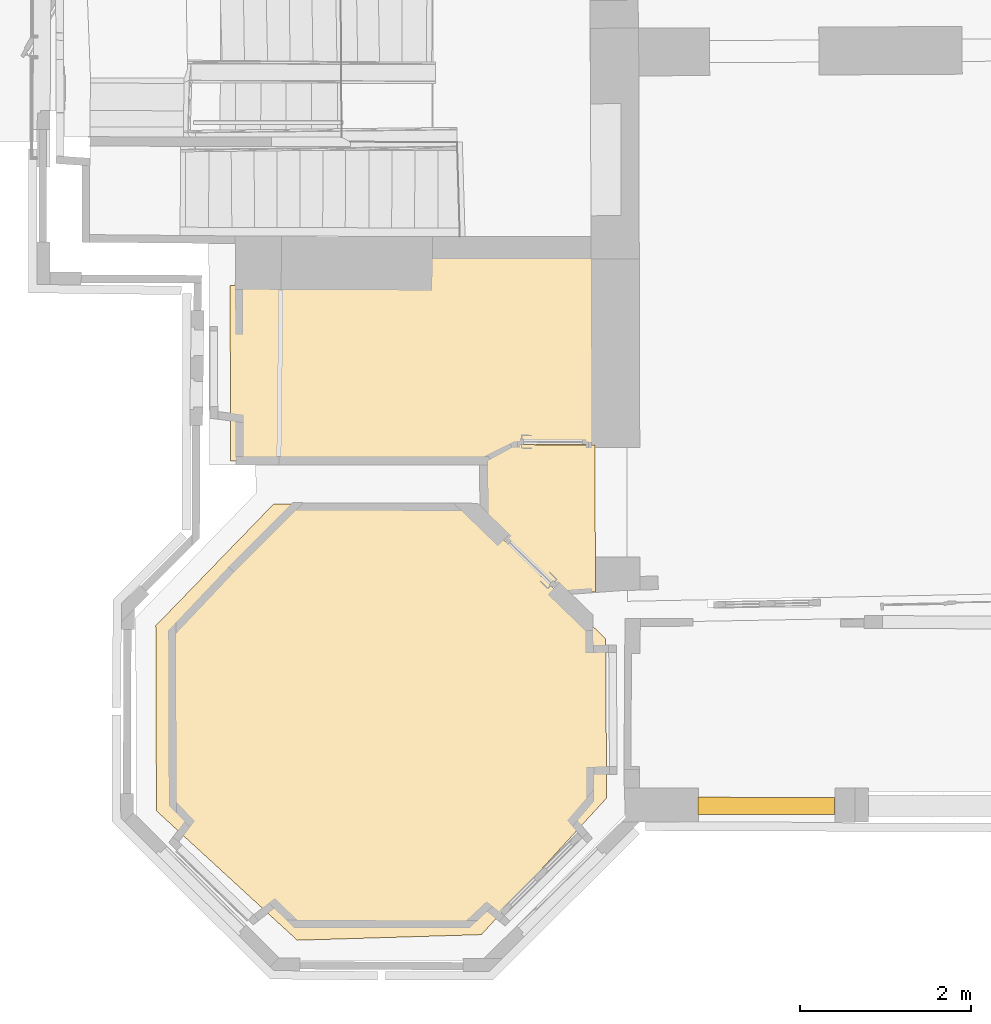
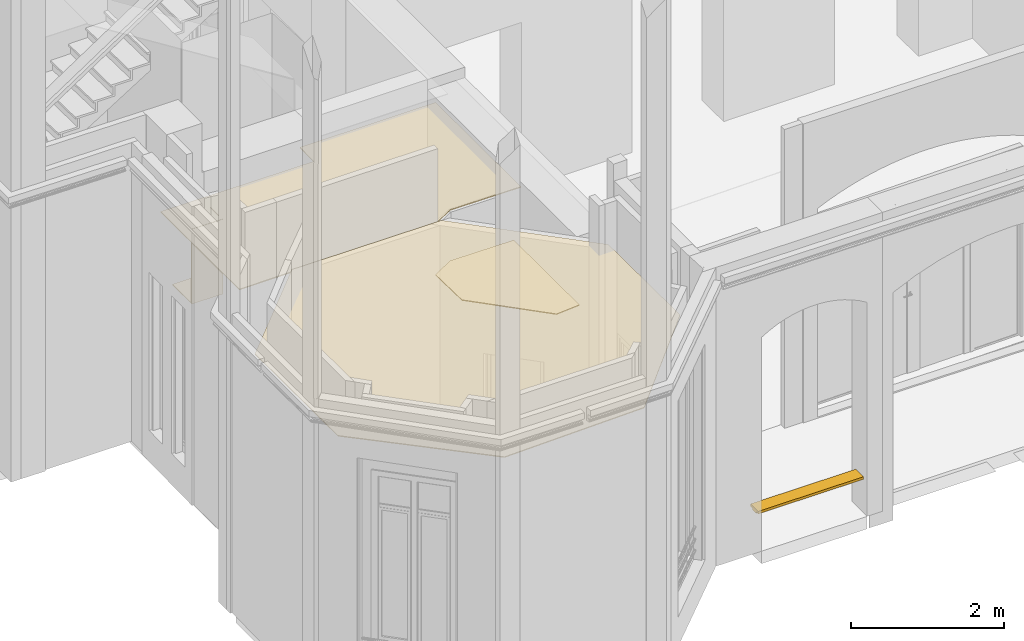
# One storey, part 78 of 97: 3 coverings, 1 railing.
"""IFC2X3 building model written with IfcOpenShell, lengths in centimetres."""

from ifc_helpers import new_model, entity, si_unit, converted_unit, direction, frame, origin, origin_with_axes, place, context, subcontext, project, spatial, faceted_brep, shape, source, transform, mapped, material, material_list, type_object, element, save


model = new_model("IFC2X3")

# Units and contexts
model_context = context("Model", 3, precision=0.0001, world=origin(), true_north=direction((0.225632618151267, 0.974212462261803, 0.0)))
body_context = subcontext(model_context, "Body", "Model", "MODEL_VIEW")
ifc_project = project(units=[si_unit("LENGTHUNIT", "METRE", prefix="CENTI"), si_unit("AREAUNIT", "SQUARE_METRE", prefix="CENTI"), si_unit("VOLUMEUNIT", "CUBIC_METRE", prefix="CENTI"), converted_unit("PLANEANGLEUNIT", "DEGREE", entity("IfcRatioMeasure", 0.0174532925), si_unit("PLANEANGLEUNIT", "RADIAN"), dimensions=[0, 0, 0, 0, 0, 0, 0])], contexts=[model_context])

# Site, building, storey
site_placement = place(None, origin_with_axes())
site = spatial("IfcSite", under=ifc_project, at=site_placement, Name="Default Site", CompositionType="ELEMENT")
building_placement = place(site_placement, origin_with_axes())
building = spatial("IfcBuilding", under=site, at=building_placement, Name="Default Building", CompositionType="ELEMENT")
storey_placement = place(building_placement, origin_with_axes())
storey = spatial("IfcBuildingStorey", under=building, at=storey_placement, Name="Rez-de-chaussée", CompositionType="ELEMENT", Elevation=0.0)

# Railing
ifc_material_1 = material(Name="Pierre du saint gottard")
ifc_material_2 = material(Name="Aluminium mat")
ifc_material_list = material_list([ifc_material_1, ifc_material_2])
railing_type = type_object("IfcRailingType", Name="Colonnes rectangulaire", PredefinedType="NOTDEFINED", material=ifc_material_list)
shared_shape_1 = source(origin_with_axes(), body_context, "Body", "Brep", [
    faceted_brep([(-430.406427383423, -942.126655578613, 54.0002822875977), (-430.417823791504, -947.126579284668, 54.0002822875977), (-589.546251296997, -946.764850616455, 54.0002822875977), (-589.534854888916, -941.7649269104, 54.0002822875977), (-430.417823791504, -947.126579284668, 52.0002841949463), (-589.546251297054, -946.764850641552, 52.0002841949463), (-589.546251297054, -946.764850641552, 54.0002822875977), (-430.440521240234, -957.126617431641, 52.0002841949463), (-589.568948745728, -956.764888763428, 52.0002841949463), (-589.546251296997, -946.764850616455, 52.0002841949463), (-430.440521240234, -957.126617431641, 54.0002822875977), (-589.568948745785, -956.764888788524, 54.0002822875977), (-589.568948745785, -956.764888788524, 52.0002841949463), (-430.451917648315, -962.126541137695, 54.0002822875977), (-589.580345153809, -961.764812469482, 54.0002822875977), (-589.568948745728, -956.764888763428, 54.0002822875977), (-430.451917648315, -962.126541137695, 57.9999983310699), (-589.580345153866, -961.764812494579, 57.9999983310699), (-589.580345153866, -961.764812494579, 54.0002822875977), (-430.406427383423, -942.126655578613, 57.9999983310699), (-589.534854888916, -941.7649269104, 57.9999983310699), (-589.580345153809, -961.764812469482, 57.9999983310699), (-589.534854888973, -941.764926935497, 54.0002822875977), (-589.534854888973, -941.764926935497, 57.9999983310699), (-589.546220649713, -946.764850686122, 54.0002822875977), (-589.546220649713, -946.764850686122, 52.0002841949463), (-589.568952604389, -956.764888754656, 52.0002841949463), (-589.568952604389, -956.764888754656, 54.0002822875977), (-589.580318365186, -961.764812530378, 54.0002822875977), (-589.580318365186, -961.764812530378, 57.9999983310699), (-430.451890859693, -962.126541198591, 57.9999983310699), (-430.451890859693, -962.126541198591, 54.0002822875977), (-430.440525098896, -957.126617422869, 54.0002822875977), (-430.440525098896, -957.126617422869, 52.0002841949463), (-430.41779314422, -947.126579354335, 52.0002841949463), (-430.41779314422, -947.126579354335, 54.0002822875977)], [[[0, 1, 2, 3]], [[1, 4, 5, 6]], [[4, 7, 8, 9]], [[7, 10, 11, 12]], [[10, 13, 14, 15]], [[13, 16, 17, 18]], [[16, 19, 20, 21]], [[19, 0, 22, 23]], [[3, 24, 25, 26, 27, 28, 29, 20]], [[19, 30, 31, 32, 33, 34, 35, 0]]]),
])
shared_shape_2 = source(origin_with_axes(), body_context, "Body", "Brep", [
    faceted_brep([(-430.417823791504, -947.126579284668, 3.99971418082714), (-430.417823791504, -947.126579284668, 1.99971422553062), (-589.546251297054, -946.764850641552, 1.99971422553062), (-589.546251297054, -946.764850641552, 3.99971418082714), (-430.406427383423, -942.126655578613, 1.99971422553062), (-589.534854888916, -941.7649269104, 1.99971422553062), (-589.546251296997, -946.764850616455, 1.99971422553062), (-430.406427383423, -942.126655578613, -1.99999995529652), (-589.534854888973, -941.764926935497, -1.99999995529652), (-589.534854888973, -941.764926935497, 1.99971422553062), (-430.451917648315, -962.126541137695, -1.99999995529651), (-589.580345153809, -961.764812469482, -1.99999995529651), (-589.534854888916, -941.7649269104, -1.99999995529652), (-430.451917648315, -962.126541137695, -1.99999995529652), (-430.451917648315, -962.126541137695, 1.99971422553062), (-589.580345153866, -961.764812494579, 1.99971422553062), (-589.580345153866, -961.764812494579, -1.99999995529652), (-430.440521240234, -957.126617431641, 1.99971422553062), (-589.568948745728, -956.764888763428, 1.99971422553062), (-589.580345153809, -961.764812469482, 1.99971422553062), (-430.440521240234, -957.126617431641, 3.99971418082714), (-589.568948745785, -956.764888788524, 3.99971418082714), (-589.568948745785, -956.764888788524, 1.99971422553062), (-589.546251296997, -946.764850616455, 3.99971418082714), (-589.568948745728, -956.764888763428, 3.99971418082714), (-589.5348855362, -941.764926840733, 1.99971422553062), (-589.5348855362, -941.764926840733, -1.99999995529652), (-589.58034901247, -961.764812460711, -1.99999995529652), (-589.58034901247, -961.764812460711, 1.99971422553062), (-589.568983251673, -956.764888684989, 1.99971422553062), (-589.568983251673, -956.764888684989, 3.99971418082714), (-430.451887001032, -962.126541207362, 1.99971422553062), (-430.451887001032, -962.126541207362, -1.99999995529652), (-430.406423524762, -942.126655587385, -1.99999995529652), (-430.406423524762, -942.126655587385, 1.99971422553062), (-430.417789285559, -947.126579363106, 1.99971422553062), (-430.417789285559, -947.126579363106, 3.99971418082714)], [[[0, 1, 2, 3]], [[1, 4, 5, 6]], [[4, 7, 8, 9]], [[7, 10, 11, 12]], [[13, 14, 15, 16]], [[14, 17, 18, 19]], [[17, 20, 21, 22]], [[20, 0, 23, 24]], [[23, 6, 25, 26, 27, 28, 29, 30]], [[20, 17, 31, 32, 33, 34, 35, 36]]]),
])
shared_shape_3 = source(origin_with_axes(), body_context, "Body", "Brep", [
    faceted_brep([(11.9649283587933, 0.0712678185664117, 1.01694911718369), (11.5499995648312, 0.0500000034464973, 2.03389823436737), (11.9649283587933, 0.0712678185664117, 2.03389823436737), (11.5499995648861, 0.0500000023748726, 2.03389823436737), (11.9649283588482, 0.071267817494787, 1.01694911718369), (11.5499995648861, 0.0500000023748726, 1.01694911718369), (11.9499996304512, -0.44999998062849, 1.01694911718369), (11.5499995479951, 0.0499999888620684, 2.03389823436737), (11.5499995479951, 0.0499999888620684, 1.01694911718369), (11.9499996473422, -0.449999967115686, 1.01694911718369), (11.9499996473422, -0.449999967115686, 2.03389823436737), (12.4499999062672, -0.0500000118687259, 2.03389823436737), (11.9499996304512, -0.44999998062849, 2.03389823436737), (12.4499998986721, -0.0500000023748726, 2.03389823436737), (11.9499996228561, -0.449999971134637, 1.01694911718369), (12.4499998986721, -0.0500000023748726, 1.01694911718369), (11.9649283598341, 0.0712678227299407, 2.03389823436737), (12.4499998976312, -0.0500000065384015, 1.01694911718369)], [[[0, 1, 2]], [[3, 4, 5]], [[6, 7, 8]], [[3, 9, 10]], [[6, 11, 12]], [[13, 14, 15]], [[15, 16, 13]], [[2, 17, 0]], [[12, 2, 3]], [[2, 12, 13]], [[0, 6, 5]], [[6, 0, 15]]]),
])
shared_shape_4 = source(origin_with_axes(), body_context, "Body", "Brep", [
    faceted_brep([(-12.0350711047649, 0.0712678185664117, 1.01694911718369), (-12.449999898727, 0.0500000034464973, 2.03389823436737), (-12.0350711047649, 0.0712678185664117, 2.03389823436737), (-12.4499998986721, 0.0500000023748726, 2.03389823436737), (-12.03507110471, 0.071267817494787, 1.01694911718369), (-12.4499998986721, 0.0500000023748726, 1.01694911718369), (-12.049999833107, -0.44999998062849, 1.01694911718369), (-12.4499999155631, 0.0499999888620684, 2.03389823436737), (-12.4499999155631, 0.0499999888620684, 1.01694911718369), (-12.049999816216, -0.449999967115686, 1.01694911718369), (-12.049999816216, -0.449999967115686, 2.03389823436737), (-11.549999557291, -0.0500000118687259, 2.03389823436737), (-12.049999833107, -0.44999998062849, 2.03389823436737), (-11.5499995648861, -0.0500000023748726, 2.03389823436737), (-12.0499998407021, -0.449999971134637, 1.01694911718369), (-11.5499995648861, -0.0500000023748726, 1.01694911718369), (-12.0350711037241, 0.0712678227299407, 2.03389823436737), (-11.549999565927, -0.0500000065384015, 1.01694911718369)], [[[0, 1, 2]], [[3, 4, 5]], [[6, 7, 8]], [[3, 9, 10]], [[6, 11, 12]], [[13, 14, 15]], [[15, 16, 13]], [[2, 17, 0]], [[12, 2, 3]], [[2, 12, 13]], [[0, 6, 5]], [[6, 0, 15]]]),
])
shared_shape_5 = source(origin_with_axes(), body_context, "Body", "Brep", [
    faceted_brep([(-2.99999993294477, -5.00000007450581, 0.0), (2.99999993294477, 5.00000007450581, 0.0), (2.99999993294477, -5.00000007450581, 0.0), (-2.99999993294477, 5.00000007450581, 0.0), (-2.99999993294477, 5.00000007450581, 47.9999989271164), (2.99999993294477, 5.00000007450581, 47.9999989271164), (2.99999993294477, -5.00000007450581, 47.9999989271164), (-2.99999993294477, -5.00000007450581, 47.9999989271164)], [[[0, 1, 2]], [[1, 0, 3]], [[4, 1, 3]], [[1, 4, 5]], [[4, 6, 5]], [[6, 4, 7]], [[6, 0, 2]], [[0, 6, 7]], [[6, 1, 5]], [[1, 6, 2]], [[0, 4, 3]], [[4, 0, 7]]]),
])
railing_placement = place(storey_placement, frame((-589.557606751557, -951.764895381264, -2.0), z_axis=(0.0, 0.0, 1.0), x_axis=(1.0, 0.0, 0.0)))
element("IfcRailing", 1, at=railing_placement, inside=storey, type_object=railing_type, material=ifc_material_list, Name="Garde-corps 379473", PredefinedType="NOTDEFINED", shapes=[
    shape(body_context, "Body", "MappedRepresentation", [mapped(shared_shape_1, transform((589.557606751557, 951.764895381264, 2.0), x_axis=(1.0, 0.0, 0.0), y_axis=(0.0, 1.0, 0.0), z_axis=(0.0, 0.0, 1.0), scale=1.0, scale2=1.0, scale3=1.0, uniform=False))]),
    shape(body_context, "Body", "MappedRepresentation", [mapped(shared_shape_2, transform((589.557606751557, 951.764895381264, 2.0), x_axis=(1.0, 0.0, 0.0), y_axis=(0.0, 1.0, 0.0), z_axis=(0.0, 0.0, 1.0), scale=1.0, scale2=1.0, scale3=1.0, uniform=False))]),
    shape(body_context, "Body", "MappedRepresentation", [mapped(shared_shape_3, transform((6.73019506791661e-06, 2.56913223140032e-05, 4.47034836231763e-08), x_axis=(0.999997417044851, -0.00227286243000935, 0.0), y_axis=(0.00227286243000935, 0.999997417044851, 0.0), z_axis=(0.0, 0.0, 1.0), scale=1.00000001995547, scale2=1.00000001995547, scale3=1.0, uniform=False))]),
    shape(body_context, "Body", "MappedRepresentation", [mapped(shared_shape_4, transform((159.128434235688, -0.361702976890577, 4.47034836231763e-08), x_axis=(0.999997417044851, -0.00227286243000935, 0.0), y_axis=(0.00227286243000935, 0.999997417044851, 0.0), z_axis=(0.0, 0.0, 1.0), scale=1.00000001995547, scale2=1.00000001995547, scale3=1.0, uniform=False))]),
    shape(body_context, "Body", "MappedRepresentation", [mapped(shared_shape_5, transform((9.56440644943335, -0.0217180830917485, 5.99999991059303), x_axis=(0.999997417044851, -0.00227286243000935, 0.0), y_axis=(0.00227286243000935, 0.999997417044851, 0.0), z_axis=(0.0, 0.0, 1.0), scale=1.00000001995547, scale2=1.00000001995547, scale3=1.0, uniform=False))]),
    shape(body_context, "Body", "MappedRepresentation", [mapped(shared_shape_5, transform((23.5643454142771, -0.0535708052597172, 5.99999991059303), x_axis=(0.999997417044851, -0.00227286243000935, 0.0), y_axis=(0.00227286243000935, 0.999997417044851, 0.0), z_axis=(0.0, 0.0, 1.0), scale=1.00000001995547, scale2=1.00000001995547, scale3=1.0, uniform=False))]),
    shape(body_context, "Body", "MappedRepresentation", [mapped(shared_shape_5, transform((37.5643320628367, -0.085423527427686, 5.99999991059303), x_axis=(0.999997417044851, -0.00227286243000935, 0.0), y_axis=(0.00227286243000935, 0.999997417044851, 0.0), z_axis=(0.0, 0.0, 1.0), scale=1.00000001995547, scale2=1.00000001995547, scale3=1.0, uniform=False))]),
    shape(body_context, "Body", "MappedRepresentation", [mapped(shared_shape_5, transform((51.5642710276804, -0.117180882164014, 5.99999991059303), x_axis=(0.999997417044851, -0.00227286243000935, 0.0), y_axis=(0.00227286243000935, 0.999997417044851, 0.0), z_axis=(0.0, 0.0, 1.0), scale=1.00000001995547, scale2=1.00000001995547, scale3=1.0, uniform=False))]),
    shape(body_context, "Body", "MappedRepresentation", [mapped(shared_shape_5, transform((65.56425767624, -0.149033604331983, 5.99999991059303), x_axis=(0.999997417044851, -0.00227286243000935, 0.0), y_axis=(0.00227286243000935, 0.999997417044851, 0.0), z_axis=(0.0, 0.0, 1.0), scale=1.00000001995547, scale2=1.00000001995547, scale3=1.0, uniform=False))]),
    shape(body_context, "Body", "MappedRepresentation", [mapped(shared_shape_5, transform((79.5641966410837, -0.180886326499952, 5.99999991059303), x_axis=(0.999997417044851, -0.00227286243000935, 0.0), y_axis=(0.00227286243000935, 0.999997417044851, 0.0), z_axis=(0.0, 0.0, 1.0), scale=1.00000001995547, scale2=1.00000001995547, scale3=1.0, uniform=False))]),
    shape(body_context, "Body", "MappedRepresentation", [mapped(shared_shape_5, transform((93.5641832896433, -0.21264368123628, 5.99999991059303), x_axis=(0.999997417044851, -0.00227286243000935, 0.0), y_axis=(0.00227286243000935, 0.999997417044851, 0.0), z_axis=(0.0, 0.0, 1.0), scale=1.00000001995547, scale2=1.00000001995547, scale3=1.0, uniform=False))]),
    shape(body_context, "Body", "MappedRepresentation", [mapped(shared_shape_5, transform((107.564122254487, -0.244496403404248, 5.99999991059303), x_axis=(0.999997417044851, -0.00227286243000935, 0.0), y_axis=(0.00227286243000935, 0.999997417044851, 0.0), z_axis=(0.0, 0.0, 1.0), scale=1.00000001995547, scale2=1.00000001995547, scale3=1.0, uniform=False))]),
    shape(body_context, "Body", "MappedRepresentation", [mapped(shared_shape_5, transform((121.564108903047, -0.276253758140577, 5.99999991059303), x_axis=(0.999997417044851, -0.00227286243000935, 0.0), y_axis=(0.00227286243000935, 0.999997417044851, 0.0), z_axis=(0.0, 0.0, 1.0), scale=1.00000001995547, scale2=1.00000001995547, scale3=1.0, uniform=False))]),
    shape(body_context, "Body", "MappedRepresentation", [mapped(shared_shape_5, transform((135.56404786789, -0.308106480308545, 5.99999991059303), x_axis=(0.999997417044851, -0.00227286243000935, 0.0), y_axis=(0.00227286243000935, 0.999997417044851, 0.0), z_axis=(0.0, 0.0, 1.0), scale=1.00000001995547, scale2=1.00000001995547, scale3=1.0, uniform=False))]),
    shape(body_context, "Body", "MappedRepresentation", [mapped(shared_shape_5, transform((149.56403451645, -0.339959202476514, 5.99999991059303), x_axis=(0.999997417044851, -0.00227286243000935, 0.0), y_axis=(0.00227286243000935, 0.999997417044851, 0.0), z_axis=(0.0, 0.0, 1.0), scale=1.00000001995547, scale2=1.00000001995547, scale3=1.0, uniform=False))]),
])

# Coverings
ifc_material_3 = material(Name="Blanc")
covering_1_placement = place(storey_placement, frame((-1085.31632828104, -599.119658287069, 397.092408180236), z_axis=(0.0, 0.0, 1.0), x_axis=(1.0, 0.0, 0.0)))
element("IfcCovering", 2, at=covering_1_placement, inside=storey, material=ifc_material_3, Name="Faux-plafond 8413", PredefinedType="CEILING", context=body_context, shape_type="Brep", body=[
    faceted_brep([(-137.103410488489, -358.647256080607, 1.39999961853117), (27.4198095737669, -509.783368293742, 1.39999961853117), (242.472032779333, -503.236584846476, 1.39999961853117), (388.783888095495, -343.71996421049, 1.39999961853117), (387.675241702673, -157.746939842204, 1.39999961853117), (226.059679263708, -0.667767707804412, 1.39999961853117), (-4.36366823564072e-05, -4.95145675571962e-06, 1.39999961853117), (-137.889619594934, -142.37547415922, 1.39999961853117), (-137.889619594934, -142.37547415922, 5.72204679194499e-06), (-4.36366823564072e-05, -4.95145675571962e-06, 5.72204679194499e-06), (226.059679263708, -0.667767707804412, 5.72204679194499e-06), (387.675241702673, -157.746939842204, 5.72204679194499e-06), (388.783888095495, -343.71996421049, 5.72204679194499e-06), (242.472032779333, -503.236584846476, 5.72204679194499e-06), (27.4198095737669, -509.783368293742, 5.72204679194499e-06), (-137.103410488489, -358.647256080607, 5.72204679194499e-06), (27.4198183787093, -509.783358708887, 5.72204679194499e-06), (27.4198183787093, -509.783358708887, 1.39999961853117), (242.472031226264, -503.236533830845, 5.72204679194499e-06), (242.472031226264, -503.236533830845, 1.39999961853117), (388.783929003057, -343.720001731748, 5.72204679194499e-06), (388.783929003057, -343.720001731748, 1.39999961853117), (387.675236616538, -157.746939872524, 5.72204679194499e-06), (387.675236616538, -157.746939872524, 1.39999961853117), (226.059648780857, -0.667799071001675, 5.72204679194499e-06), (226.059648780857, -0.667799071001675, 1.39999961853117), (-4.35775325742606e-05, 1.50720954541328e-05, 5.72204679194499e-06), (-4.35775325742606e-05, 1.50720954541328e-05, 1.39999961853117), (-137.889621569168, -142.375472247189, 5.72204679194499e-06), (-137.889621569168, -142.375472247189, 1.39999961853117), (-137.10344673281, -358.647256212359, 5.72204679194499e-06), (-137.10344673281, -358.647256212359, 1.39999961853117)], [[[0, 1, 2, 3, 4, 5, 6, 7]], [[8, 9, 10, 11, 12, 13, 14, 15]], [[15, 16, 17, 0]], [[14, 18, 19, 1]], [[13, 20, 21, 2]], [[12, 22, 23, 3]], [[11, 24, 25, 4]], [[10, 26, 27, 5]], [[9, 28, 29, 6]], [[8, 30, 31, 7]]]),
])
covering_2_placement = place(storey_placement, frame((-1136.4391290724, -343.874532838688, 352.889107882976), z_axis=(0.0, 0.0, 1.0), x_axis=(1.0, 0.0, 0.0)))
element("IfcCovering", 3, at=covering_2_placement, inside=storey, material=ifc_material_3, Name="Faux-plafond 6627", PredefinedType="CEILING", context=body_context, shape_type="Brep", body=[
    faceted_brep([(0.690742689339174, -205.157058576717, 1.39999467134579), (297.96628590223, -203.97340569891, 1.39999467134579), (330.519386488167, -186.026590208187, 1.39999467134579), (437.218710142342, -186.840360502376, 1.39999467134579), (436.640926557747, 35.9346219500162, 1.39999467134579), (231.311508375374, 35.8951636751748, 1.39999467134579), (231.168457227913, -0.898449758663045, 1.39999467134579), (-3.61803387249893e-06, 6.81482328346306e-06, 1.39999467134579), (-3.61803387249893e-06, 6.81482328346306e-06, 7.74861419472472e-07), (231.168457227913, -0.898449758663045, 7.74861419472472e-07), (231.311508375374, 35.8951636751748, 7.74861419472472e-07), (436.640926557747, 35.9346219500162, 7.74861419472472e-07), (437.218710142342, -186.840360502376, 7.74861419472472e-07), (330.519386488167, -186.026590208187, 7.74861419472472e-07), (297.96628590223, -203.97340569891, 7.74861419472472e-07), (0.690742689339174, -205.157058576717, 7.74861419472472e-07), (297.966285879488, -203.973399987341, 7.74861419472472e-07), (297.966285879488, -203.973399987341, 1.39999467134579), (330.519383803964, -186.026585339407, 7.74861419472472e-07), (330.519383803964, -186.026585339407, 1.39999467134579), (437.218709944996, -186.840386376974, 7.74861419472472e-07), (437.218709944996, -186.840386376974, 1.39999467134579), (436.640923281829, 35.9346219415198, 7.74861419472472e-07), (436.640923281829, 35.9346219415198, 1.39999467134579), (231.311508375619, 35.8951624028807, 7.74861419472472e-07), (231.311508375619, 35.8951624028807, 1.39999467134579), (231.16850693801, -0.898449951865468, 7.74861419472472e-07), (231.16850693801, -0.898449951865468, 1.39999467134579), (-3.6224546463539e-06, 5.67737845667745e-06, 7.74861419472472e-07), (-3.6224546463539e-06, 5.67737845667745e-06, 1.39999467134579), (0.690754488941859, -205.157058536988, 7.74861419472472e-07), (0.690754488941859, -205.157058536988, 1.39999467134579)], [[[0, 1, 2, 3, 4, 5, 6, 7]], [[8, 9, 10, 11, 12, 13, 14, 15]], [[15, 16, 17, 0]], [[14, 18, 19, 1]], [[13, 20, 21, 2]], [[12, 22, 23, 3]], [[11, 24, 25, 4]], [[10, 26, 27, 5]], [[9, 28, 29, 6]], [[8, 30, 31, 7]]]),
    faceted_brep([(15.1806795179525, -55.2847317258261, -116.913556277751), (62.174411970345, -55.8185747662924, -116.913556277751), (62.7487146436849, -5.25914941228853, -116.913556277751), (15.0171243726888, -5.05842481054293, -116.913556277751), (15.0171243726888, -5.05842481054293, -118.313550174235), (62.7487146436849, -5.25914941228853, -118.313550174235), (62.174411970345, -55.8185747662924, -118.313550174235), (15.1806795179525, -55.2847317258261, -118.313550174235), (62.1744119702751, -55.8185747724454, -118.313550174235), (62.1744119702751, -55.8185747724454, -116.913556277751), (62.7487608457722, -5.25914993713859, -118.313550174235), (62.7487608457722, -5.25914993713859, -116.913556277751), (15.0171244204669, -5.05841344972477, -118.313550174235), (15.0171244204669, -5.05841344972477, -116.913556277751), (15.1807243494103, -55.2847315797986, -118.313550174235), (15.1807243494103, -55.2847315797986, -116.913556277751)], [[[0, 1, 2, 3]], [[4, 5, 6, 7]], [[7, 8, 9, 0]], [[6, 10, 11, 1]], [[5, 12, 13, 2]], [[4, 14, 15, 3]]]),
    faceted_brep([(60.9386407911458, -54.554455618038, -118.341492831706), (61.4988290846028, -5.24496350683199, -118.341492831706), (62.7487146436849, -5.25914941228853, -118.341492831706), (62.174411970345, -55.8185747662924, -118.341492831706), (61.4988290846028, -5.24496350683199, 1.65851193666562), (62.748714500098, -5.25916205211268, 1.65851193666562), (62.748714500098, -5.25916205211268, -118.341492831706), (60.9386407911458, -54.554455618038, 1.65851193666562), (62.174411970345, -55.8185747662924, 1.65851193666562), (62.7487146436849, -5.25914941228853, 1.65851193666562), (62.1743864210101, -55.8185997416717, -118.341492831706), (62.1743864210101, -55.8185997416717, 1.65851193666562), (62.7487608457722, -5.25914993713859, -118.341492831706), (62.7487608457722, -5.25914993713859, 1.65851193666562), (61.4987905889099, -5.24496306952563, 1.65851193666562), (61.4987905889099, -5.24496306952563, -118.341492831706), (15.1948892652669, -54.0347984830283, -118.341492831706), (60.9386407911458, -54.5544556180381, -118.341494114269), (62.174411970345, -55.8185747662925, -118.34149411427), (15.1806795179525, -55.2847317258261, -118.34149279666), (15.1948892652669, -54.0347984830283, 1.65851321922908), (15.1806795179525, -55.2847317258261, 1.65851321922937), (62.174411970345, -55.8185747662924, 1.65851190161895), (15.1948892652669, -54.0347984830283, 1.65851193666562), (15.1806901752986, -55.2847318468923, -118.341492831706), (15.1806901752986, -55.2847318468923, 1.65851193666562), (15.1806795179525, -55.2847317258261, -118.341492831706), (62.1744119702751, -55.8185747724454, -118.341492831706), (62.1744119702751, -55.8185747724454, 1.65851193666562), (15.1806795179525, -55.2847317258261, 1.65851193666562), (60.9386409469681, -54.5544419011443, 1.65851193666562), (60.9386409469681, -54.5544419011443, -118.341492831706)], [[[0, 1, 2, 3]], [[1, 4, 5, 6]], [[4, 7, 8, 9]], [[7, 0, 10, 11]], [[3, 12, 13, 8]], [[7, 14, 15, 0]], [[16, 17, 18, 19]], [[0, 7, 11, 10]], [[7, 20, 21, 22]], [[23, 16, 24, 25]], [[26, 27, 28, 29]], [[23, 30, 31, 16]]]),
])
covering_3_placement = place(storey_placement, frame((-805.919769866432, -529.901118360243, 271.490149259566), z_axis=(0.0, 0.0, 1.0), x_axis=(1.0, 0.0, 0.0)))
element("IfcCovering", 4, at=covering_3_placement, inside=storey, material=ifc_material_3, Name="Faux-plafond 6070", PredefinedType="CEILING", context=body_context, shape_type="Brep", body=[
    faceted_brep([(59.824160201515, -175.051836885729, 1.39998936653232), (96.2739263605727, -171.913676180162, 1.39998936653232), (95.8172117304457, -0.784830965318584, 1.39998936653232), (2.72822035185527e-05, -4.68663206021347e-06, 1.39998936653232), (-32.553073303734, -17.9468201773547, 1.39998936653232), (-31.3523019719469, -85.1983594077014, 1.39998936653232), (-31.3523019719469, -85.1983594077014, -4.52995205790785e-06), (-32.553073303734, -17.9468201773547, -4.52995205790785e-06), (2.72822035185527e-05, -4.68663206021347e-06, -4.52995205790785e-06), (95.8172117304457, -0.784830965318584, -4.52995205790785e-06), (96.2739263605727, -171.913676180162, -4.52995205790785e-06), (59.824160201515, -175.051836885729, -4.52995205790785e-06), (96.2739277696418, -171.913692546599, -4.52995205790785e-06), (96.2739277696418, -171.913692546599, 1.39998936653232), (95.8172003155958, -0.784830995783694, -4.52995205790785e-06), (95.8172003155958, -0.784830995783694, 1.39998936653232), (2.7320543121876e-05, -5.88801248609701e-09, -4.52995205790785e-06), (2.7320543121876e-05, -5.88801248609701e-09, 1.39998936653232), (-32.5530706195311, -17.9468250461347, -4.52995205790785e-06), (-32.5530706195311, -17.9468250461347, 1.39998936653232), (-31.3522457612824, -85.1983584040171, -4.52995205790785e-06), (-31.3522457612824, -85.1983584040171, 1.39998936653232), (59.8241622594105, -175.051834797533, -4.52995205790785e-06), (59.8241622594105, -175.051834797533, 1.39998936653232)], [[[0, 1, 2, 3, 4, 5]], [[6, 7, 8, 9, 10, 11]], [[11, 12, 13, 0]], [[10, 14, 15, 1]], [[9, 16, 17, 2]], [[8, 18, 19, 3]], [[7, 20, 21, 4]], [[6, 22, 23, 5]]]),
])

save(model, "model.ifc")
